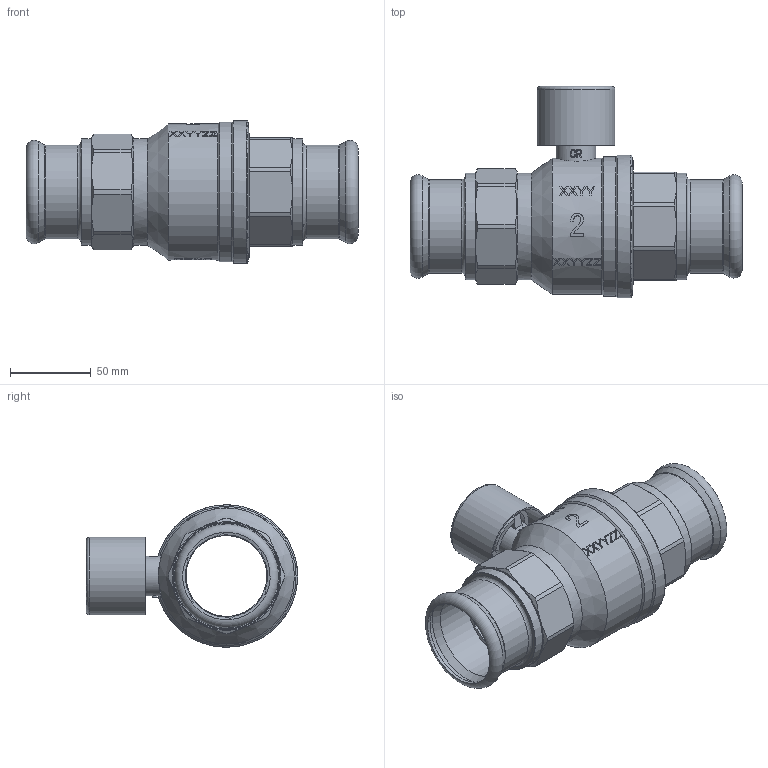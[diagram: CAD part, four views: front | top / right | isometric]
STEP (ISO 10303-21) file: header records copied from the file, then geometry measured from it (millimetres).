
FILE_DESCRIPTION((''),'2;1');
FILE_NAME('P:\Fastrack\53972_CRANE 3D\Press Fit\HATTERSLEY\100LS-PF\54MM\Fig_100LS-PF-54MM.stp','2011-12-12T11:42:26',('dcole'),(''),'Autodesk Inventor 2008','Autodesk Inventor 2008','');
FILE_SCHEMA(('AUTOMOTIVE_DESIGN { 1 0 10303 214 1 1 1 1 }'));
Length unit declared in the file: millimetre
Products named in the file (1): Fig_100LS-PF-54MM
Bounding box: 205 x 130.51 x 88 mm (x, y, z)
Volume: 341884.6 mm3; surface area: 157442.9 mm2
Topology: 1 solids, 8 shells, 956 faces, 2579 edges, 1697 vertices
Faces by surface type: plane 477, bspline 241, cylinder 128, cone 93, torus 14, sphere 3
Full cylindrical faces by diameter (mm): 3 x2, 14 x1, 14.1 x2, 14.5 x1, 16 x1, 16.5 x1, 18 x1, 18.3 x1, 18.5 x2, 24.5 x1, 32.2 x1, 34 x2, 38 x1, 40 x2, 46 x1, 48 x1, 50 x5, 54 x4, 56.2 x2, 56.656 x2, 58 x2, 60 x2, 60.2 x2, 61 x4, 65.8 x2, 66 x1, 73 x1, 79 x1, 81 x1, 81.2 x1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
Entity records: 63112 total; most frequent: CARTESIAN_POINT 40566, ORIENTED_EDGE 4790, DIRECTION 3737, EDGE_CURVE 2395, VERTEX_POINT 1638, AXIS2_PLACEMENT_3D 1257, VECTOR 1223, LINE 1223
